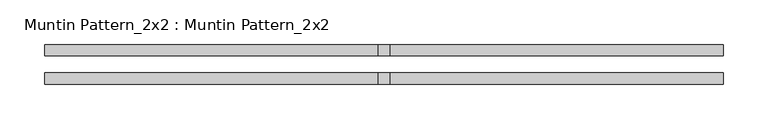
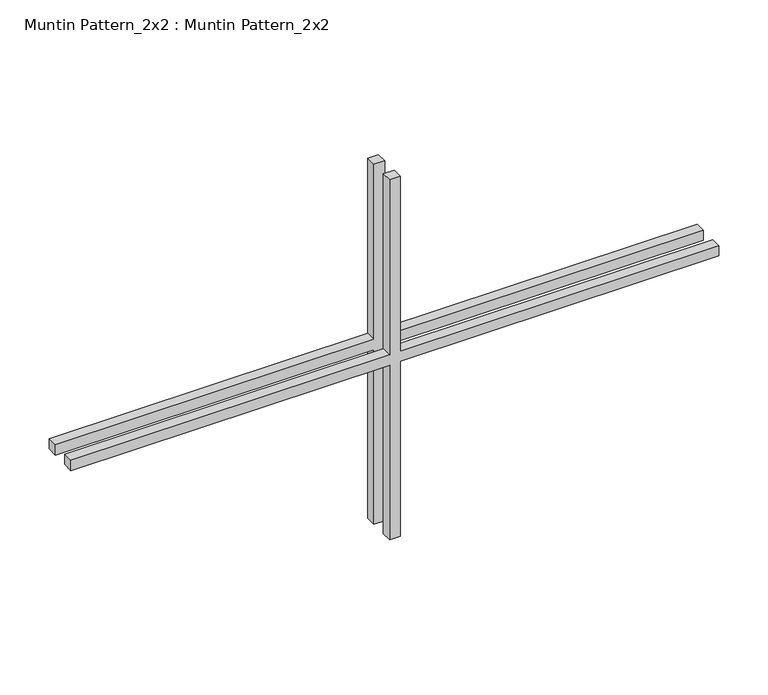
"""IFC4 building model written with IfcOpenShell, lengths in millimetres: proxy geometry, Muntin Pattern_2x2 : Muntin Pattern_2x2."""

from ifc_helpers import new_model, si_unit, frame, origin, place, context, project, spatial, polyline, outline, extrude, source, transform, mapped, element, save


def muntin_pattern_2x2_muntin_pattern_2x2_e23ef482(model_context):
    return source(origin(), model_context, "Body", "SweptSolid", [
        extrude(outline(polyline([(230.1875, -6.35), (230.1875, -381.0), (217.4875, -381.0), (217.4875, -6.35), (0.0, -6.35), (0.0, 6.35), (217.4875, 6.35), (217.4875, 381.0), (230.1875, 381.0), (230.1875, 6.35), (447.675, 6.35), (447.675, -6.35), (230.1875, -6.35)])), frame((0.0, 9.525, 0.0), z_axis=(0.0, 1.0, 0.0), x_axis=(0.0, 0.0, 1.0)), (0.0, 0.0, 1.0), 12.7),
        extrude(outline(polyline([(230.1875, -6.35), (230.1875, -381.0), (217.4875, -381.0), (217.4875, -6.35), (0.0, -6.35), (0.0, 6.35), (217.4875, 6.35), (217.4875, 381.0), (230.1875, 381.0), (230.1875, 6.35), (447.675, 6.35), (447.675, -6.35), (230.1875, -6.35)])), frame((0.0, -22.225, 0.0), z_axis=(0.0, 1.0, 0.0), x_axis=(0.0, 0.0, 1.0)), (0.0, 0.0, 1.0), 12.7),
    ])


if __name__ == "__main__":
    model = new_model("IFC4")
    model_context = context("Model", 3, world=origin())
    ifc_project = project(units=[si_unit("LENGTHUNIT", "METRE", prefix="MILLI")], contexts=[model_context])
    site = spatial("IfcSite", under=ifc_project)
    building = spatial("IfcBuilding", under=site)
    placement = place(None, origin())
    muntin_pattern_2x2_muntin_pattern_2x2_shape = muntin_pattern_2x2_muntin_pattern_2x2_e23ef482(model_context)
    element("IfcBuildingElementProxy", 1, Name="Muntin Pattern_2x2 : Muntin Pattern_2x2", ObjectType="Muntin Pattern_2x2 : Muntin Pattern_2x2", at=placement, inside=building, context=model_context, shape_type="MappedRepresentation", body=[
        mapped(muntin_pattern_2x2_muntin_pattern_2x2_shape, transform((0.0, 0.0, 0.0), x_axis=(1.0, 0.0, 0.0), y_axis=(0.0, 1.0, 0.0), z_axis=(0.0, 0.0, 1.0))),
    ])
    save(model, "model.ifc")
